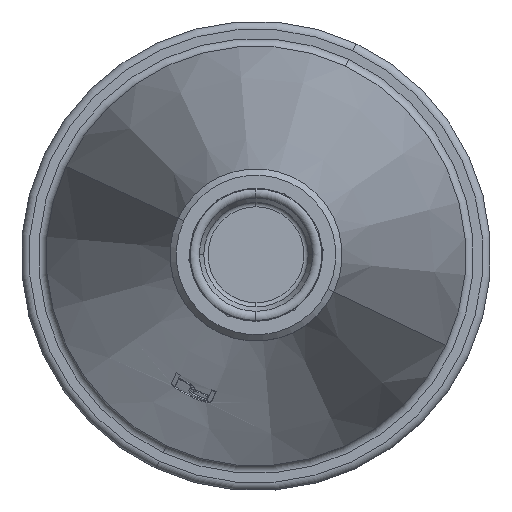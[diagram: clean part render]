
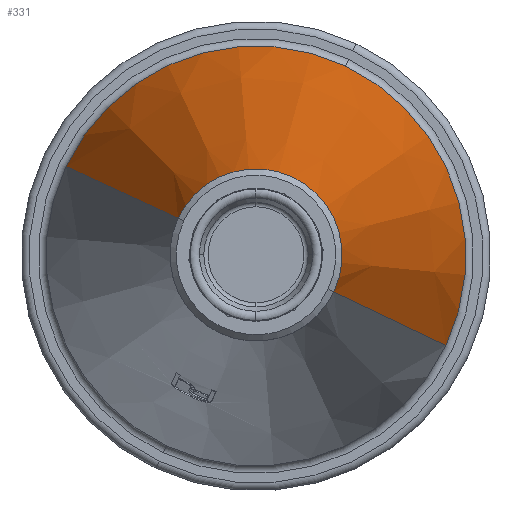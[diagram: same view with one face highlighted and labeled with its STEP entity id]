
A CAD part, top view. The second image highlights one B-rep face of the part: STEP entity #331.
In plain terms, the highlighted conical face has half-angle 13.35 degrees and reference radius 94.544 mm.
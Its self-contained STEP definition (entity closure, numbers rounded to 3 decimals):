
#331=ADVANCED_FACE('',(#687),#688,.T.);
#687=FACE_OUTER_BOUND('',#1103,.T.);
#688=CONICAL_SURFACE('',#1104,94.544,0.233);
#1103=EDGE_LOOP('',(#1884,#1885,#1886,#1887,#1888));
#1104=AXIS2_PLACEMENT_3D('',#1889,#1890,#1891);
#1884=ORIENTED_EDGE('',*,*,#2499,.T.);
#1885=ORIENTED_EDGE('',*,*,#2615,.F.);
#1886=ORIENTED_EDGE('',*,*,#2480,.F.);
#1887=ORIENTED_EDGE('',*,*,#2501,.T.);
#1888=ORIENTED_EDGE('',*,*,#2616,.T.);
#1889=CARTESIAN_POINT('',(408.068,594.496,19.747));
#1890=DIRECTION('',(0.,0.,-1.0));
#1891=DIRECTION('',(0.905,-0.426,0.));
#2480=EDGE_CURVE('',#2953,#2955,#2956,.T.);
#2499=EDGE_CURVE('',#2988,#2989,#2990,.T.);
#2501=EDGE_CURVE('',#2953,#2991,#2993,.T.);
#2615=EDGE_CURVE('',#2955,#2989,#3166,.T.);
#2616=EDGE_CURVE('',#2991,#2988,#3167,.T.);
#2953=VERTEX_POINT('',#3577);
#2955=VERTEX_POINT('',#3579);
#2956=CIRCLE('',#3580,134.087);
#2988=VERTEX_POINT('',#3698);
#2989=VERTEX_POINT('',#3699);
#2990=LINE('',#3700,#3701);
#2991=VERTEX_POINT('',#3702);
#2993=LINE('',#3704,#3705);
#3166=CIRCLE('',#4301,134.087);
#3167=CIRCLE('',#4302,55.0);
#3577=CARTESIAN_POINT('',(286.739,651.582,-146.888));
#3579=CARTESIAN_POINT('',(465.154,715.824,-146.888));
#3580=AXIS2_PLACEMENT_3D('',#4884,#4885,#4886);
#3698=CARTESIAN_POINT('',(457.835,571.08,186.383));
#3699=CARTESIAN_POINT('',(529.397,537.409,-146.888));
#3700=CARTESIAN_POINT('',(493.616,554.245,19.747));
#3701=VECTOR('',#4908,1.0);
#3702=CARTESIAN_POINT('',(358.301,617.911,186.383));
#3704=CARTESIAN_POINT('',(322.52,634.746,19.747));
#3705=VECTOR('',#4912,1.0);
#4301=AXIS2_PLACEMENT_3D('',#5020,#5021,#5022);
#4302=AXIS2_PLACEMENT_3D('',#5023,#5024,#5025);
#4884=CARTESIAN_POINT('',(408.068,594.496,-146.888));
#4885=DIRECTION('',(0.,0.,-1.0));
#4886=DIRECTION('',(0.905,-0.426,0.));
#4908=DIRECTION('',(0.209,-0.098,-0.973));
#4912=DIRECTION('',(0.209,-0.098,0.973));
#5020=CARTESIAN_POINT('',(408.068,594.496,-146.888));
#5021=DIRECTION('',(0.,0.,-1.0));
#5022=DIRECTION('',(0.905,-0.426,0.));
#5023=CARTESIAN_POINT('',(408.068,594.496,186.383));
#5024=DIRECTION('',(0.,0.,-1.0));
#5025=DIRECTION('',(0.905,-0.426,0.));
